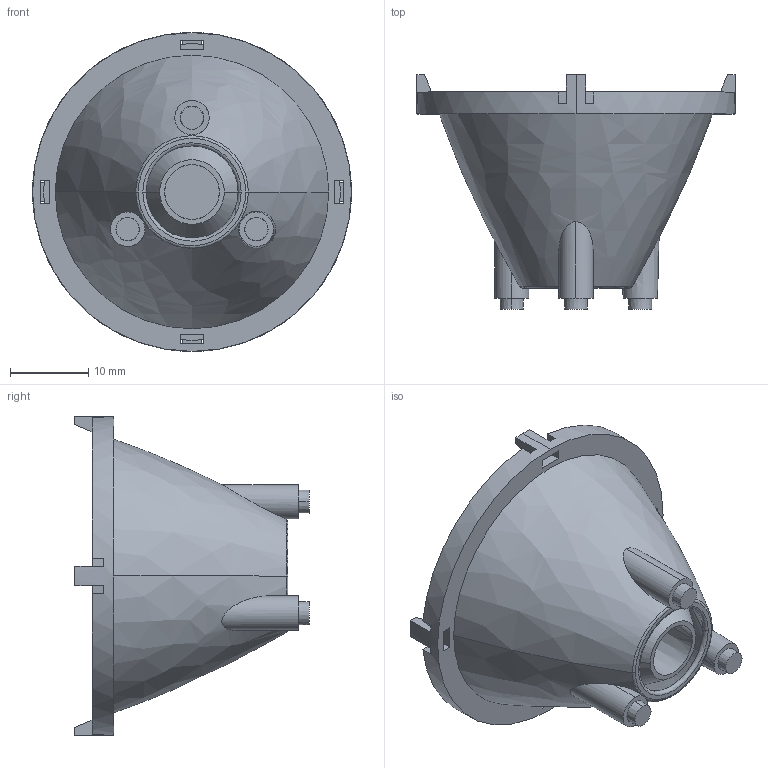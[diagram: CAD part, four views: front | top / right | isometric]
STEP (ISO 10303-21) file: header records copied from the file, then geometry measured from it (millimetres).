
FILE_DESCRIPTION (( 'STEP AP214' ), '1' );
FILE_NAME ('Color-Mix(1)-Lens-LensH-Apps_RevA.STEP', '2011-01-10T23:18:37', ( ' ' ), ( ' ' ), 'SwSTEP 2.0', 'SolidWorks 2009', '' );
FILE_SCHEMA (( 'AUTOMOTIVE_DESIGN' ));
Length unit declared in the file: millimetre
Products named in the file (3): 2400-0028-a_cpy; 2400-0010_RevC_cpy_Distorted; Color-Mix(1)-Lens-LensH-Apps_RevA
Assembly tree (2 placements, depth 2):
  Color-Mix(1)-Lens-LensH-Apps_RevA
    2400-0028-a_cpy
    2400-0010_RevC_cpy_Distorted
Bounding box: 40.8 x 29.99 x 40.8 mm (x, y, z)
Volume: 14341 mm3; surface area: 9581.3 mm2
Topology: 2 solids, 2 shells, 93 faces, 248 edges, 164 vertices
Faces by surface type: plane 61, cone 16, torus 6, cylinder 6, bspline 4
Entity records: 3422 total; most frequent: CARTESIAN_POINT 942, DIRECTION 498, ORIENTED_EDGE 496, EDGE_CURVE 248, AXIS2_PLACEMENT_3D 170, VERTEX_POINT 164, VECTOR 158, LINE 158
